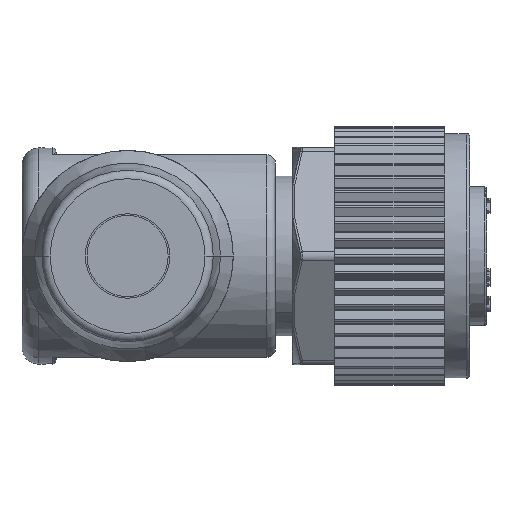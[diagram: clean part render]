
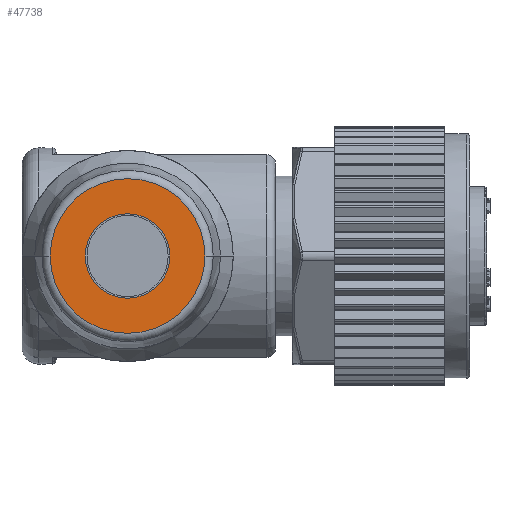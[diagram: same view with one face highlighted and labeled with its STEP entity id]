
A CAD part, front view. The second image highlights one B-rep face of the part: STEP entity #47738.
In plain terms, the highlighted planar face has unit normal (0, -1, 0).
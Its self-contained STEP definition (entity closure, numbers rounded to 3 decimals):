
#11958=CARTESIAN_POINT('',(-21.25,-28.6,0.));
#11959=DIRECTION('',(0.,1.,0.));
#11960=DIRECTION('',(-1.,0.,0.));
#11961=AXIS2_PLACEMENT_3D('',#11958,#11959,#11960);
#11963=CARTESIAN_POINT('',(-21.25,-28.6,0.));
#11964=DIRECTION('',(0.,1.,0.));
#11965=DIRECTION('',(1.,0.,0.));
#11966=AXIS2_PLACEMENT_3D('',#11963,#11964,#11965);
#11968=CARTESIAN_POINT('',(-21.25,-28.6,0.));
#11969=DIRECTION('',(0.,-1.,0.));
#11970=DIRECTION('',(0.,0.,1.));
#11971=AXIS2_PLACEMENT_3D('',#11968,#11969,#11970);
#11973=CARTESIAN_POINT('',(-21.25,-28.6,0.));
#11974=DIRECTION('',(0.,-1.,0.));
#11975=DIRECTION('',(0.,0.,-1.));
#11976=AXIS2_PLACEMENT_3D('',#11973,#11974,#11975);
#30993=CARTESIAN_POINT('',(-21.25,-28.6,2.5));
#30994=CARTESIAN_POINT('',(-21.25,-28.6,-2.5));
#30995=VERTEX_POINT('',#30993);
#30996=VERTEX_POINT('',#30994);
#31799=CARTESIAN_POINT('',(-25.826,-28.6,0.));
#31800=CARTESIAN_POINT('',(-16.674,-28.6,0.));
#31801=VERTEX_POINT('',#31799);
#31802=VERTEX_POINT('',#31800);
#47723=CARTESIAN_POINT('',(-21.25,-28.6,0.));
#47724=DIRECTION('',(0.,-1.,0.));
#47725=DIRECTION('',(1.,0.,0.));
#47726=AXIS2_PLACEMENT_3D('',#47723,#47724,#47725);
#47727=PLANE('',#47726);
#47728=ORIENTED_EDGE('',*,*,#47669,.T.);
#47729=ORIENTED_EDGE('',*,*,#47691,.T.);
#47730=EDGE_LOOP('',(#47728,#47729));
#47731=FACE_OUTER_BOUND('',#47730,.F.);
#47733=ORIENTED_EDGE('',*,*,#47732,.T.);
#47735=ORIENTED_EDGE('',*,*,#47734,.T.);
#47736=EDGE_LOOP('',(#47733,#47735));
#47737=FACE_BOUND('',#47736,.F.);
#47738=ADVANCED_FACE('',(#47731,#47737),#47727,.T.);
#11962=CIRCLE('',#11961,4.576);
#11967=CIRCLE('',#11966,4.576);
#11972=CIRCLE('',#11971,2.5);
#11977=CIRCLE('',#11976,2.5);
#47669=EDGE_CURVE('',#31801,#31802,#11962,.T.);
#47691=EDGE_CURVE('',#31802,#31801,#11967,.T.);
#47732=EDGE_CURVE('',#30995,#30996,#11972,.T.);
#47734=EDGE_CURVE('',#30996,#30995,#11977,.T.);
